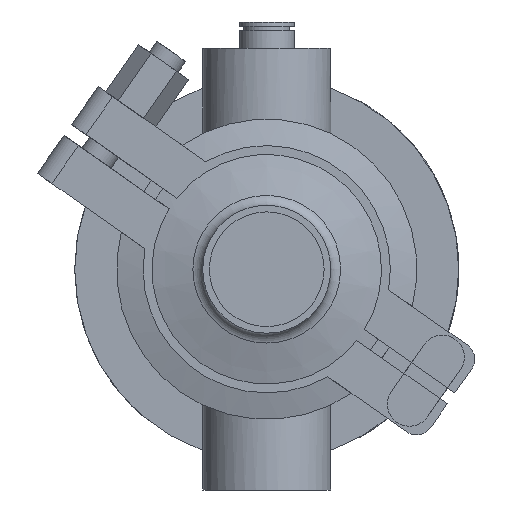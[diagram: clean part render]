
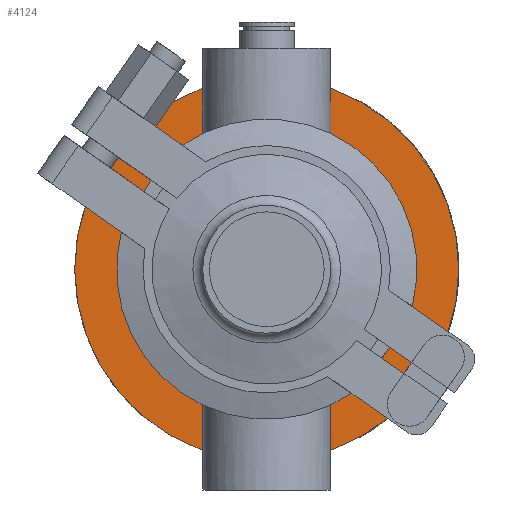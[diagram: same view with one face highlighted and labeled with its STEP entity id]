
A CAD part, front view. The second image highlights one B-rep face of the part: STEP entity #4124.
In plain terms, the highlighted planar face has unit normal (0, -1, 0).
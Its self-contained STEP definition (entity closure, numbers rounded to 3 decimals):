
#462 = DIRECTION ( 'NONE',  ( 0., -1., 0. ) ) ;
#2976 = DIRECTION ( 'NONE',  ( 0., 1., 0. ) ) ;
#4124 = ADVANCED_FACE ( 'NONE', ( #13883 ), #11174, .T. ) ;
#4749 = VERTEX_POINT ( 'NONE', #10759 ) ;
#6384 = CARTESIAN_POINT ( 'NONE',  ( 0., 15., 0. ) ) ;
#6522 = ORIENTED_EDGE ( 'NONE', *, *, #8436, .F. ) ;
#7704 = AXIS2_PLACEMENT_3D ( 'NONE', #14194, #462, #8009 ) ;
#8009 = DIRECTION ( 'NONE',  ( 1., 0., 0. ) ) ;
#8436 = EDGE_CURVE ( 'NONE', #4749, #4749, #17735, .T. ) ;
#10387 = AXIS2_PLACEMENT_3D ( 'NONE', #6384, #2976, #15200 ) ;
#10759 = CARTESIAN_POINT ( 'NONE',  ( -43.5, 15., 0. ) ) ;
#11174 = PLANE ( 'NONE',  #7704 ) ;
#13391 = EDGE_LOOP ( 'NONE', ( #6522 ) ) ;
#13883 = FACE_OUTER_BOUND ( 'NONE', #13391, .T. ) ;
#14194 = CARTESIAN_POINT ( 'NONE',  ( 0., 15., 0. ) ) ;
#15200 = DIRECTION ( 'NONE',  ( -1., 0., 0. ) ) ;
#17735 = CIRCLE ( 'NONE', #10387, 43.5 ) ;
